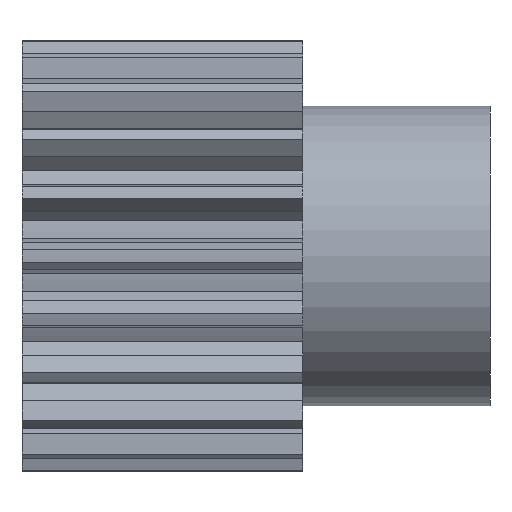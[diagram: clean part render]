
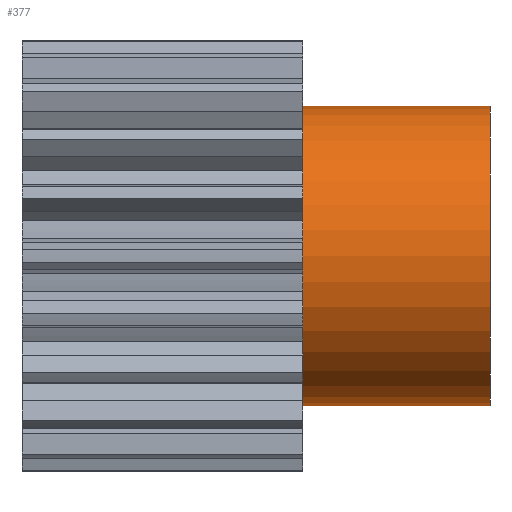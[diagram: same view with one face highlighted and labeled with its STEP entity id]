
A CAD part, front view. The second image highlights one B-rep face of the part: STEP entity #377.
In plain terms, the highlighted cylindrical face has radius 8 mm (diameter 16 mm), a partial arc.
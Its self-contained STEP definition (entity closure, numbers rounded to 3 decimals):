
#2 = ORIENTED_EDGE ( 'NONE', *, *, #1067, .T. ) ;
#28 = ORIENTED_EDGE ( 'NONE', *, *, #1285, .F. ) ;
#366 = EDGE_LOOP ( 'NONE', ( #28, #379, #370, #2 ) ) ;
#370 = ORIENTED_EDGE ( 'NONE', *, *, #1272, .T. ) ;
#377 = ADVANCED_FACE ( 'NONE', ( #1877 ), #1873, .T. ) ;
#379 = ORIENTED_EDGE ( 'NONE', *, *, #1086, .T. ) ;
#1067 = EDGE_CURVE ( 'NONE', #1268, #1269, #3147, .T. ) ;
#1086 = EDGE_CURVE ( 'NONE', #1333, #1271, #3205, .T. ) ;
#1268 = VERTEX_POINT ( 'NONE', #3532 ) ;
#1269 = VERTEX_POINT ( 'NONE', #3510 ) ;
#1271 = VERTEX_POINT ( 'NONE', #3518 ) ;
#1272 = EDGE_CURVE ( 'NONE', #1271, #1268, #3570, .T. ) ;
#1285 = EDGE_CURVE ( 'NONE', #1333, #1269, #3558, .T. ) ;
#1333 = VERTEX_POINT ( 'NONE', #3657 ) ;
#1873 = CYLINDRICAL_SURFACE ( 'NONE', #1926, 8. ) ;
#1877 = FACE_OUTER_BOUND ( 'NONE', #366, .T. ) ;
#1919 = DIRECTION ( 'NONE',  ( 0., 0., 1. ) ) ;
#1920 = DIRECTION ( 'NONE',  ( -1., 0., 0. ) ) ;
#1921 = CARTESIAN_POINT ( 'NONE',  ( 7.5, 0., 0. ) ) ;
#1926 = AXIS2_PLACEMENT_3D ( 'NONE', #1921, #1920, #1919 ) ;
#3147 = CIRCLE ( 'NONE', #3177, 8. ) ;
#3174 = DIRECTION ( 'NONE',  ( 0., 0., 1. ) ) ;
#3175 = DIRECTION ( 'NONE',  ( 1., 0., 0. ) ) ;
#3176 = CARTESIAN_POINT ( 'NONE',  ( 7.5, 0., 0. ) ) ;
#3177 = AXIS2_PLACEMENT_3D ( 'NONE', #3176, #3175, #3174 ) ;
#3201 = DIRECTION ( 'NONE',  ( 0., 0., 1. ) ) ;
#3202 = DIRECTION ( 'NONE',  ( -1., 0., 0. ) ) ;
#3203 = CARTESIAN_POINT ( 'NONE',  ( 17.5, 0., 0. ) ) ;
#3204 = AXIS2_PLACEMENT_3D ( 'NONE', #3203, #3202, #3201 ) ;
#3205 = CIRCLE ( 'NONE', #3204, 8. ) ;
#3510 = CARTESIAN_POINT ( 'NONE',  ( 7.5, 0., -8. ) ) ;
#3518 = CARTESIAN_POINT ( 'NONE',  ( 17.5, 0., 8. ) ) ;
#3532 = CARTESIAN_POINT ( 'NONE',  ( 7.5, 0., 8. ) ) ;
#3544 = DIRECTION ( 'NONE',  ( -1., 0., 0. ) ) ;
#3545 = VECTOR ( 'NONE', #3544, 1000. ) ;
#3547 = CARTESIAN_POINT ( 'NONE',  ( 7.5, 0., -8. ) ) ;
#3558 = LINE ( 'NONE', #3547, #3545 ) ;
#3562 = DIRECTION ( 'NONE',  ( -1., 0., 0. ) ) ;
#3563 = VECTOR ( 'NONE', #3562, 1000. ) ;
#3564 = CARTESIAN_POINT ( 'NONE',  ( 7.5, 0., 8. ) ) ;
#3570 = LINE ( 'NONE', #3564, #3563 ) ;
#3657 = CARTESIAN_POINT ( 'NONE',  ( 17.5, 0., -8. ) ) ;
